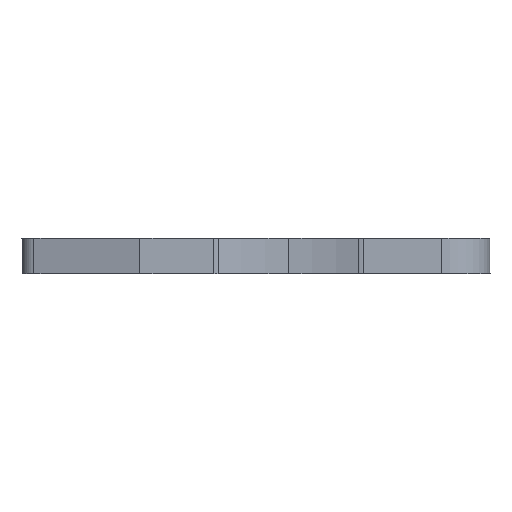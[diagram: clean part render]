
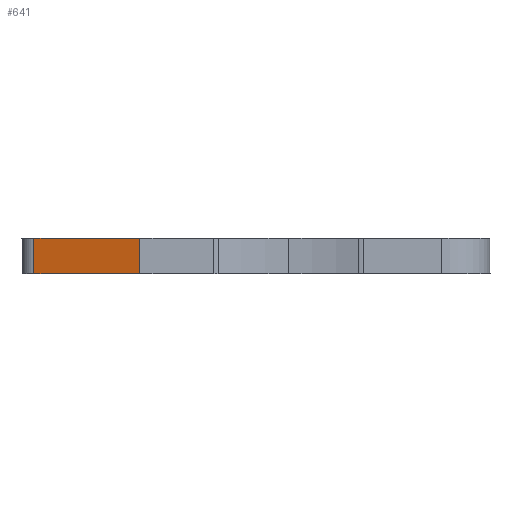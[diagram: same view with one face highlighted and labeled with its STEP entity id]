
A CAD part, front view. The second image highlights one B-rep face of the part: STEP entity #641.
In plain terms, the highlighted planar face has unit normal (-0.259, -0.966, 0).
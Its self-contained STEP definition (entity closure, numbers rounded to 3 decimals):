
#586=CARTESIAN_POINT('',(-28.518,-27.95,5.931));
#587=VERTEX_POINT('',#586);
#594=CARTESIAN_POINT('',(-28.518,-27.95,3.731));
#595=VERTEX_POINT('',#594);
#596=CARTESIAN_POINT('',(-28.518,-27.95,3.731));
#597=DIRECTION('',(0.,0.,1.));
#598=VECTOR('',#597,2.2);
#599=LINE('',#596,#598);
#600=EDGE_CURVE('',#595,#587,#599,.T.);
#611=CARTESIAN_POINT('',(-31.805,-27.069,4.831));
#612=DIRECTION('',(0.966,-0.259,0.));
#613=DIRECTION('',(-0.259,-0.966,0.));
#614=AXIS2_PLACEMENT_3D('',#611,#613,#612);
#615=PLANE('',#614);
#616=CARTESIAN_POINT('',(-35.092,-26.188,5.931));
#617=VERTEX_POINT('',#616);
#618=CARTESIAN_POINT('',(-35.092,-26.188,3.731));
#619=VERTEX_POINT('',#618);
#620=CARTESIAN_POINT('',(-35.092,-26.188,5.931));
#621=DIRECTION('',(0.,0.,-1.));
#622=VECTOR('',#621,2.2);
#623=LINE('',#620,#622);
#624=EDGE_CURVE('',#617,#619,#623,.T.);
#625=ORIENTED_EDGE('E523',*,*,#624,.T.);
#626=CARTESIAN_POINT('',(-35.092,-26.188,3.731));
#627=DIRECTION('',(0.966,-0.259,0.));
#628=VECTOR('',#627,6.806);
#629=LINE('',#626,#628);
#630=EDGE_CURVE('',#619,#595,#629,.T.);
#631=ORIENTED_EDGE('E836',*,*,#630,.T.);
#632=ORIENTED_EDGE('E836',*,*,#600,.T.);
#633=CARTESIAN_POINT('',(-28.518,-27.95,5.931));
#634=DIRECTION('',(-0.966,0.259,0.));
#635=VECTOR('',#634,6.806);
#636=LINE('',#633,#635);
#637=EDGE_CURVE('',#587,#617,#636,.T.);
#638=ORIENTED_EDGE('E741',*,*,#637,.T.);
#639=EDGE_LOOP('',(#625,#631,#632,#638));
#640=FACE_OUTER_BOUND('',#639,.T.);
#641=ADVANCED_FACE('F196',(#640),#615,.T.);
